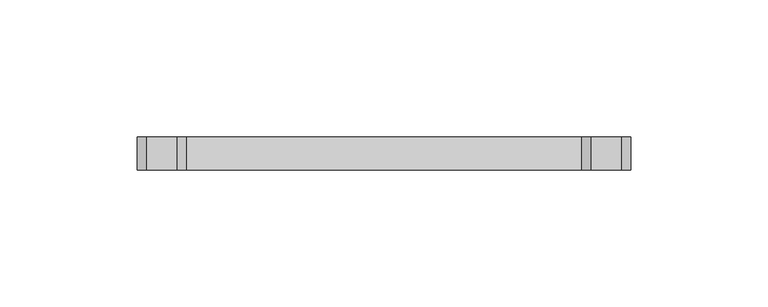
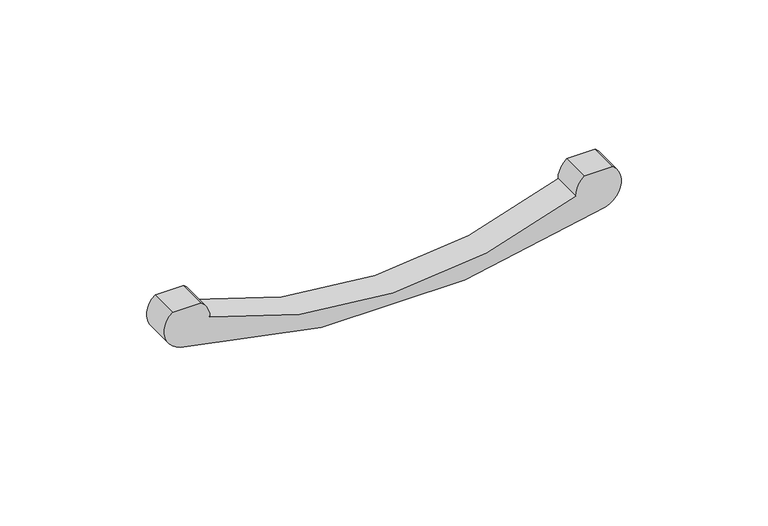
"""IFC4 building model written with IfcOpenShell, lengths in millimetres: proxy geometry, ART DECCO^GLAM-HAFELE 110_34_286."""

import ifcopenshell
import ifcopenshell.guid

model = None  # the IFC model being written
_history = None  # IfcOwnerHistory: only IFC2X3 demands one
_inside = {}  # id of a spatial element -> (the spatial element, [elements in it])
_under = {}  # id of a project, library or spatial element -> (it, [spatial elements below it])
_declared = {}  # id of a project -> (the project, [libraries it declares])
_typed = {}  # id of a type object -> (the type object, [elements of that type])
_made_of = {}  # id of a material, layer set ... -> (it, [elements and type objects made of it])


def new_model(schema):
    """Start an empty IFC model of exactly this schema.

    Asked for "IFC4X3", IfcOpenShell would pick the latest addendum, in which some entities
    have other attributes; the version numbers below select the first issue.
    IFC2X3 requires an IfcOwnerHistory on every rooted entity: one is made here for all.
    """
    global model, _history
    if schema == "IFC4X3":
        model = ifcopenshell.file(schema_version=(4, 3, 0, 0))
    else:
        model = ifcopenshell.file(schema=schema)
    _inside.clear()
    _under.clear()
    _declared.clear()
    _typed.clear()
    _made_of.clear()
    _history = None
    if model.schema == "IFC2X3":
        org = make("IfcOrganization", Name="unknown")
        user = make(
            "IfcPersonAndOrganization",
            ThePerson=make("IfcPerson", FamilyName="unknown"),
            TheOrganization=org,
        )
        app = make(
            "IfcApplication",
            ApplicationDeveloper=org,
            Version="unknown",
            ApplicationFullName="unknown",
            ApplicationIdentifier="unknown",
        )
        _history = make(
            "IfcOwnerHistory",
            OwningUser=user,
            OwningApplication=app,
            ChangeAction="ADDED",
            CreationDate=0,
        )
    return model


def make(cls, **values):
    """One entity of the class cls with the attributes given. An attribute that is None is left unset."""
    return model.create_entity(
        cls, **{name: value for name, value in values.items() if value is not None}
    )


def rooted(cls, **values):
    """An entity with a GlobalId (a new one), such as an element, a storey or a relation."""
    return make(cls, GlobalId=ifcopenshell.guid.new(), OwnerHistory=_history, **values)


def si_unit(unit_type, name, prefix=None):
    """IfcSIUnit, for example si_unit("LENGTHUNIT", "METRE", prefix="MILLI")."""
    return make("IfcSIUnit", UnitType=unit_type, Prefix=prefix, Name=name)


def assignment(units):
    """IfcUnitAssignment: the units of a project."""
    return None if units is None else make("IfcUnitAssignment", Units=units)


def point(xyz):
    """IfcCartesianPoint."""
    return None if xyz is None else make("IfcCartesianPoint", Coordinates=xyz)


def direction(xyz):
    """IfcDirection."""
    return None if xyz is None else make("IfcDirection", DirectionRatios=xyz)


def frame(location, z_axis=None, x_axis=None):
    """IfcAxis2Placement3D, a coordinate frame: its origin and axes. An axis left out is left unset."""
    return make(
        "IfcAxis2Placement3D",
        Location=point(location),
        Axis=direction(z_axis),
        RefDirection=direction(x_axis),
    )


def frame_2d(location, x_axis=None):
    """IfcAxis2Placement2D, a coordinate frame in the plane: its origin and x axis."""
    return make(
        "IfcAxis2Placement2D", Location=point(location), RefDirection=direction(x_axis)
    )


def origin():
    """The frame at (0, 0, 0) with its axes left unset."""
    return frame((0.0, 0.0, 0.0))


def place(relative_to, where):
    """IfcLocalPlacement: puts the frame where relative to a parent placement (None: the world)."""
    return make(
        "IfcLocalPlacement", PlacementRelTo=relative_to, RelativePlacement=where
    )


def context(
    kind, dimensions, precision=None, world=None, true_north=None, identifier=None
):
    """IfcGeometricRepresentationContext, for example the 3D "Model" context."""
    return make(
        "IfcGeometricRepresentationContext",
        ContextIdentifier=identifier,
        ContextType=kind,
        CoordinateSpaceDimension=dimensions,
        Precision=precision,
        WorldCoordinateSystem=world,
        TrueNorth=true_north,
    )


def project(units=None, contexts=None):
    """IfcProject with its units and contexts."""
    return rooted(
        "IfcProject",
        Name="project",
        RepresentationContexts=contexts,
        UnitsInContext=assignment(units),
    )


def spatial(cls, under=None, at=None, **own):
    """A site, building, storey or space (cls), placed at a placement, below another one or the project."""
    s = rooted(cls, ObjectPlacement=at, **own)
    if under is not None:
        _under.setdefault(under.id(), (under, []))[1].append(s)
    return s


def polyline(points):
    """IfcPolyline through the points."""
    return make("IfcPolyline", Points=[point(p) for p in points])


def circle_curve(where, radius):
    """IfcCircle in the frame where."""
    return make("IfcCircle", Position=where, Radius=radius)


def trimmed(basis, trim1, trim2, sense, master):
    """IfcTrimmedCurve: the piece of a basis curve between two trims."""
    return make(
        "IfcTrimmedCurve",
        BasisCurve=basis,
        Trim1=trim1,
        Trim2=trim2,
        SenseAgreement=sense,
        MasterRepresentation=master,
    )


def segment(curve, same_sense, transition):
    """IfcCompositeCurveSegment."""
    return make(
        "IfcCompositeCurveSegment",
        Transition=transition,
        SameSense=same_sense,
        ParentCurve=curve,
    )


def composite_curve(segments, self_intersect=None):
    """IfcCompositeCurve: segments joined end to end."""
    return make("IfcCompositeCurve", Segments=segments, SelfIntersect=self_intersect)


def outline(outer, holes=None, kind="AREA"):
    """IfcArbitraryClosedProfileDef: a profile drawn as a closed curve; with holes, ...WithVoids."""
    if holes is None:
        return make("IfcArbitraryClosedProfileDef", ProfileType=kind, OuterCurve=outer)
    return make(
        "IfcArbitraryProfileDefWithVoids",
        ProfileType=kind,
        OuterCurve=outer,
        InnerCurves=holes,
    )


def extrude(swept, where, along, depth):
    """IfcExtrudedAreaSolid: the profile swept, set in the frame where, extruded along a direction by depth."""
    return make(
        "IfcExtrudedAreaSolid",
        SweptArea=swept,
        Position=where,
        ExtrudedDirection=direction(along),
        Depth=depth,
    )


def shape(context_of_items, identifier, shape_type, items):
    """IfcShapeRepresentation: the items that make up one representation, for example the "Body"."""
    return make(
        "IfcShapeRepresentation",
        ContextOfItems=context_of_items,
        RepresentationIdentifier=identifier,
        RepresentationType=shape_type,
        Items=items,
    )


def source(mapping_origin, context_of_items, identifier, shape_type, items):
    """IfcRepresentationMap: a shape defined once, which mapped items show again and again."""
    return make(
        "IfcRepresentationMap",
        MappingOrigin=mapping_origin,
        MappedRepresentation=shape(context_of_items, identifier, shape_type, items),
    )


def transform(
    local_origin,
    x_axis=None,
    y_axis=None,
    z_axis=None,
    scale=None,
    scale2=None,
    scale3=None,
    uniform=True,
):
    """IfcCartesianTransformationOperator3D, or its non-uniform kind. x_axis, y_axis, z_axis: its Axis1, 2, 3."""
    if uniform:
        return make(
            "IfcCartesianTransformationOperator3D",
            Axis1=direction(x_axis),
            Axis2=direction(y_axis),
            LocalOrigin=point(local_origin),
            Scale=scale,
            Axis3=direction(z_axis),
        )
    return make(
        "IfcCartesianTransformationOperator3DnonUniform",
        Axis1=direction(x_axis),
        Axis2=direction(y_axis),
        LocalOrigin=point(local_origin),
        Scale=scale,
        Axis3=direction(z_axis),
        Scale2=scale2,
        Scale3=scale3,
    )


def mapped(mapping_source, mapping_target):
    """IfcMappedItem: shows the shape of a source again, moved by a transform."""
    return make(
        "IfcMappedItem", MappingSource=mapping_source, MappingTarget=mapping_target
    )


def made_of(thing, what):
    """Note that an element or type object is made of a material, layer set ...; save() writes the relation."""
    if what is not None:
        _made_of.setdefault(what.id(), (what, []))[1].append(thing)
    return thing


def element(
    cls,
    number,
    at=None,
    inside=None,
    cuts=None,
    type_object=None,
    material=None,
    context=None,
    identifier="Body",
    shape_type=None,
    held_by="IfcProductDefinitionShape",
    body=None,
    shapes=None,
    **own,
):
    """One element of the class cls, such as IfcWall. Its Tag is "e" and its number.

    at: its placement. inside: the storey or other place that contains it. cuts: it is an
    opening in that element (IfcRelVoidsElement). A single representation is given by context,
    identifier, shape_type and body (its items); several are given by shapes. held_by: the class
    of the entity that holds the representations. save() writes the other relations.
    """
    e = rooted(cls, Tag="e%d" % number, ObjectPlacement=at, **own)
    if body is not None:
        shapes = [shape(context, identifier, shape_type, body)]
    if shapes is not None:
        e.Representation = make(held_by, Representations=shapes)
    if inside is not None:
        _inside.setdefault(inside.id(), (inside, []))[1].append(e)
    if cuts is not None:
        rooted(
            "IfcRelVoidsElement", RelatingBuildingElement=cuts, RelatedOpeningElement=e
        )
    if type_object is not None:
        _typed.setdefault(type_object.id(), (type_object, []))[1].append(e)
    return made_of(e, material)


def aggregate(whole, parts):
    """IfcRelAggregates: a whole, such as a stair, and the parts it consists of."""
    return rooted("IfcRelAggregates", RelatingObject=whole, RelatedObjects=parts)


def save(model, path):
    """Write the relations noted so far, then the file.

    IfcRelAggregates (storeys below a building ...), IfcRelContainedInSpatialStructure (elements
    in a storey), IfcRelDefinesByType, IfcRelAssociatesMaterial and IfcRelDeclares: one each for
    every whole, place, type object, material and project.
    """
    for whole, parts in _under.values():
        aggregate(whole, parts)
    for where, things in _inside.values():
        rooted(
            "IfcRelContainedInSpatialStructure",
            RelatedElements=things,
            RelatingStructure=where,
        )
    for kind, things in _typed.values():
        rooted("IfcRelDefinesByType", RelatedObjects=things, RelatingType=kind)
    for what, things in _made_of.values():
        rooted("IfcRelAssociatesMaterial", RelatedObjects=things, RelatingMaterial=what)
    for by, libraries in _declared.values():
        rooted("IfcRelDeclares", RelatingContext=by, RelatedDefinitions=libraries)
    model.write(path)


def generic_models_5fe2147b(model_context):
    return source(origin(), model_context, "Body", "SweptSolid", [
        extrude(outline(composite_curve([segment(polyline([(0.0, 176.6568542), (0.0, 165.3431458)]), True, "CONTINUOUS"), segment(trimmed(circle_curve(frame_2d((-7.0, 171.0)), 9.0), [point((0.0, 165.3431458))], [point((-7.0, 162.0))], False, "CARTESIAN"), True, "CONTINUOUS"), segment(trimmed(circle_curve(frame_2d((155.5694928, 90.0)), 177.8), [point((-7.0, 162.0))], [point((-7.0, 18.0))], True, "CARTESIAN"), True, "CONTINUOUS"), segment(trimmed(circle_curve(frame_2d((-7.0, 9.0)), 9.0), [point((-7.0, 18.0))], [point((0.0, 14.6568542))], False, "CARTESIAN"), True, "CONTINUOUS"), segment(polyline([(0.0, 14.6568542), (0.0, 3.3431458)]), True, "CONTINUOUS"), segment(trimmed(circle_curve(frame_2d((-7.0, 9.0)), 9.0), [point((0.0, 3.3431458))], [point((-15.6134228, 6.390604))], False, "CARTESIAN"), True, "CONTINUOUS"), segment(trimmed(circle_curve(frame_2d((260.375, 90.0)), 288.375), [point((-15.6134228, 6.390604))], [point((-15.6134228, 173.609396))], False, "CARTESIAN"), True, "CONTINUOUS"), segment(trimmed(circle_curve(frame_2d((-7.0, 171.0)), 9.0), [point((-15.6134228, 173.609396))], [point((0.0, 176.6568542))], False, "CARTESIAN"), True, "CONTINUOUS")], self_intersect=False)), frame((0.0, 0.0, 0.0), z_axis=(0.0, 1.0, 0.0), x_axis=(0.0, 0.0, 1.0)), (0.0, 0.0, 1.0), 12.0),
    ])


if __name__ == "__main__":
    model = new_model("IFC4")
    model_context = context("Model", 3, world=origin())
    ifc_project = project(units=[si_unit("LENGTHUNIT", "METRE", prefix="MILLI")], contexts=[model_context])
    site = spatial("IfcSite", under=ifc_project)
    building = spatial("IfcBuilding", under=site)
    placement = place(None, origin())
    generic_models_shape = generic_models_5fe2147b(model_context)
    element("IfcBuildingElementProxy", 1, Name="ART DECCO^GLAM-HAFELE 110_34_286", ObjectType="ART DECCO^GLAM-HAFELE 110_34_286", at=placement, inside=building, context=model_context, shape_type="MappedRepresentation", body=[
        mapped(generic_models_shape, transform((0.0, 0.0, 0.0), x_axis=(1.0, 0.0, 0.0), y_axis=(0.0, 1.0, 0.0), z_axis=(0.0, 0.0, 1.0))),
    ])
    save(model, "model.ifc")
